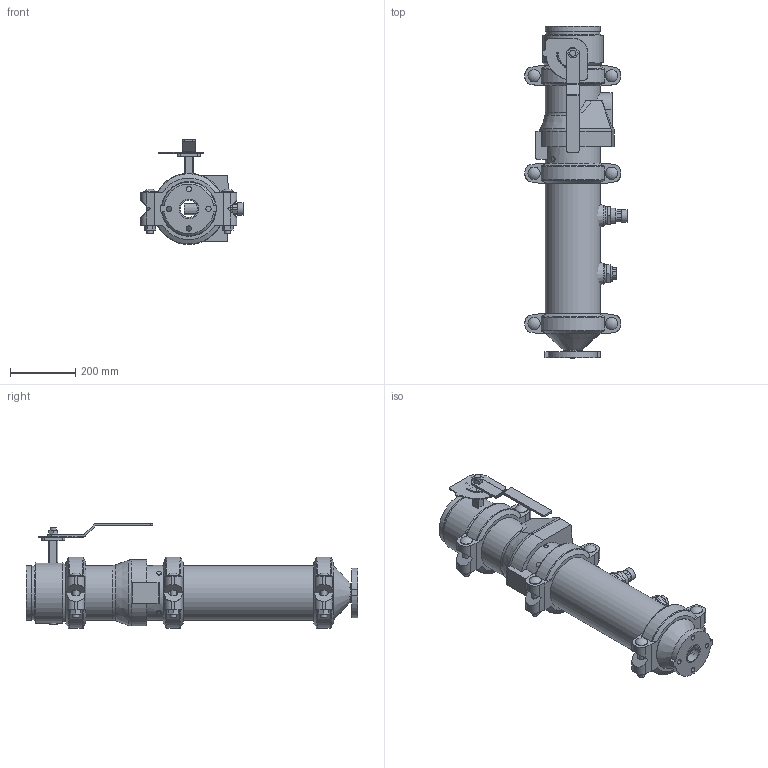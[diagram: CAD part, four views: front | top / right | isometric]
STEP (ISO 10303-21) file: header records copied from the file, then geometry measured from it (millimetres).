
FILE_DESCRIPTION(/* description */ ('VIC DVI PUMP DROP VERT S/380 (OGSxFLG) (S/924-0.75)','CAx-IF Rec.Pracs.---Representation and Presentation of Product Manufacturing Information (PMI)---4.0---2014-10-13'),/* implementation_level */ '2;1');
FILE_NAME(/* name */ 'C:\Users\Public\Documents\Victaulic.Temp\A765\Victaulic_IPS_Vertical DVI_CL 150_Series 380 (OGSxFLG)_924 (0.75)_06.0x02.0 (150x50).stp',/* time_stamp */ '2022-07-25T11:11:57+02:00',/* author */ ('Vjadhav'),/* organization */ ('Victaulic'),/* preprocessor_version */ 'ST-DEVELOPER v18',/* originating_system */ 'Autodesk Inventor 2020',/* authorisation */ '');
FILE_SCHEMA (('AP242_MANAGED_MODEL_BASED_3D_ENGINEERING_MIM_LF { 1 0 10303 442 1 1 4 }'));
Length unit declared in the file: inch
Products named in the file (9): 380_924 (0.75)-06.0x02.0; 741-02.0; 050-06.0x02.0; Pipe-06.0; 177N-06.0; 761-06.0; 779-06.0; 923-04.0x0.75; 924-04.0x0.75
Assembly tree (10 placements, depth 2):
  380_924 (0.75)-06.0x02.0
    741-02.0
    050-06.0x02.0
    177N-06.0  x3
    Pipe-06.0
    761-06.0
    779-06.0
    923-04.0x0.75
    924-04.0x0.75
Bounding box: 313.48 x 1019.17 x 322.07 mm (x, y, z)
Volume: 10533272.9 mm3; surface area: 1769379.3 mm2
Topology: 10 solids, 11 shells, 587 faces, 1531 edges, 1024 vertices
Faces by surface type: plane 345, cylinder 196, cone 20, torus 18, sphere 6, bspline 2
Full cylindrical faces by diameter (mm): 4.826 x10, 8.636 x4, 13.716 x4, 15.875 x4, 19.05 x8, 22.86 x1, 26.67 x2, 37.694 x6, 38.608 x1, 45.974 x4, 52.502 x1, 55.118 x1, 55.626 x2, 57.15 x1, 60.325 x3, 154.051 x4, 155.575 x3, 163.957 x7, 168.275 x19, 185.42 x1
Entity records: 13926 total; most frequent: CARTESIAN_POINT 2767, DIRECTION 2297, ORIENTED_EDGE 2090, EDGE_CURVE 1045, AXIS2_PLACEMENT_3D 872, VERTEX_POINT 704, LINE 553, VECTOR 553
